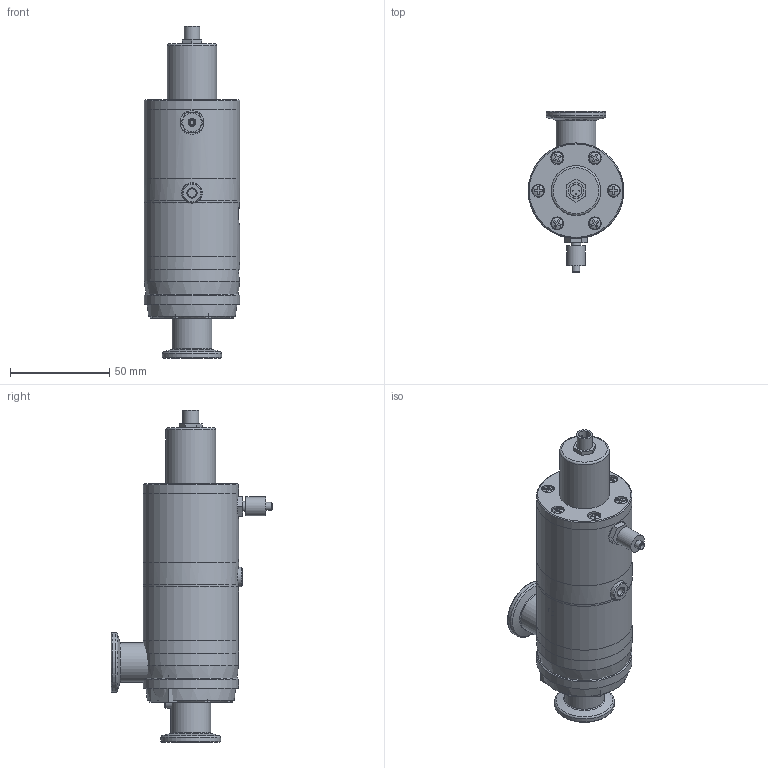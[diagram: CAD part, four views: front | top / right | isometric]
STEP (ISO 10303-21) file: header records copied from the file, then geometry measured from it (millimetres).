
FILE_DESCRIPTION( ( 'Unknown' ), '1' );
FILE_NAME( 'X:/Daten ( aktueller Bestand )/Projekte und Zeichnungen/Solid Edge/21 Eck + Durchgangsventile KF ISO-K, el.pneumatisch/Alu/Eckventil/NW16/Internet/310221.stp', 'Unknown', ( 'Unknown' ), ( 'Unknown' ), 'XStep 1.0', 'Unknown', ' ' );
FILE_SCHEMA( ( 'automotive_design' ) );
Length unit declared in the file: millimetre
Products named in the file (9): Assem1; Gehaeuse Eck.Alu.NW16; 3102-1; 3102-2; 3102-5; Schraube 3x8; M4x4; Anschluss Festo; 3102-6
Bounding box: 48 x 81.2 x 167 mm (x, y, z)
Volume: 351827.7 mm3; surface area: 98928 mm2
Topology: 22 solids, 22 shells, 460 faces, 1015 edges, 667 vertices
Faces by surface type: plane 260, cylinder 129, cone 50, torus 14, sphere 7
Full cylindrical faces by diameter (mm): 0.5 x6, 2 x2, 2.459 x12, 2.8 x2, 3 x7, 3.242 x4, 3.3 x12, 4 x5, 4.134 x4, 5 x4, 5.793 x7, 6 x4, 6.5 x12, 7.459 x2, 8 x2, 9.518 x2, 10 x2, 10.3 x2, 12 x2, 17.2 x4, 19 x2, 20 x6, 25 x2, 26 x2, 30 x4, 33.739 x2, 37.97 x2, 39 x2, 39.8 x2, 43.698 x2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
Entity records: 4912 total; most frequent: CARTESIAN_POINT 1211, DIRECTION 764, ORIENTED_EDGE 512, AXIS2_PLACEMENT_3D 334, EDGE_LOOP 321, EDGE_CURVE 256, FACE_OUTER_BOUND 244, VERTEX_POINT 221
